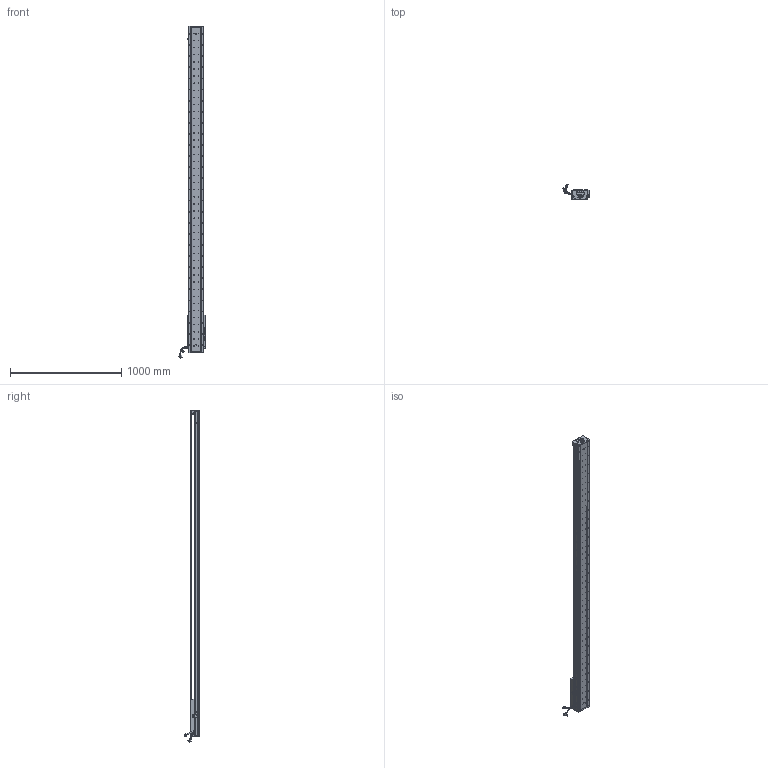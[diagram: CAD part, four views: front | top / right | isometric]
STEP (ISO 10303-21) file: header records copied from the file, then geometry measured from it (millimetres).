
FILE_DESCRIPTION (( 'STEP AP203' ), '1' );
FILE_NAME ('Z4-RY140D-1-L500-B-K.SLDASM_2550.step', '2021-05-17T08:20:19', ( '盈信电脑' ), ( '东莞市道滘镇水果街19号' ), 'SwSTEP 2.0', 'SolidWorks 2016', '' );
FILE_SCHEMA (( 'CONFIG_CONTROL_DESIGN' ));
Length unit declared in the file: millimetre
Products named in the file (36): Z4-RY140-L500詩湍100mm遵_2550; 覜茼ん672; Z-RY140感应器672光电感应片; SCALE; SCREW-M1.7; SCREW-M1.6; LABEL; PSLH080_PSLF2; Z4-RY140-L500直线电机模组底座_2550; SHIELDPLATE; 詩湍奻揤裔; SCREW-M1.6-1; SCALE-Part-1; SCREW-M1.6-3; SEAL-Part-1; COVER-Part-1; PBU_SHEET; SCALE-Part-2; HARNESS-Part-1; SEAL; SCREW-M1.6-2; LABEL-Part-1; SCREW-M1.7-1; 140蚥薯蝶輸; 080黍杅芛假蚾釱21遴; 140雄赽晤鎢ん堤盄; Z4-RY140圉猾敕臏賑輸(21遴); Z-140詩湍傷裔啣; 榋妏寠巭燃_暯_M2_2; Z4-RY140D-1-L500-B-K.SLDASM_2550; 詩湍狟揤裔; COVER; HARNESS; HOLDER0; 140-Z-臏賑輸盄裔(21遴); HARNESS-Part-2
Assembly tree (41 placements, depth 4):
  Z4-RY140D-1-L500-B-K.SLDASM_2550
    Z4-RY140-L500直线电机模组底座_2550
    Z-RY140感应器672光电感应片
    Z4-RY140圉猾敕臏賑輸(21遴)
    覜茼ん672  x3
    Z4-RY140-L500詩湍100mm遵_2550
    PSLH080_PSLF2
      SCALE
        SCALE-Part-1
        SCALE-Part-2
      HARNESS
        HARNESS-Part-1
        HARNESS-Part-2
      LABEL
        LABEL-Part-1
      COVER
        COVER-Part-1
      SEAL
        SEAL-Part-1
      榋妏寠巭燃_暯_M2_2
      SHIELDPLATE
      SCREW-M1.7
      SCREW-M1.7-1
      PBU_SHEET
      SCREW-M1.6
      SCREW-M1.6-1
      SCREW-M1.6-2
      SCREW-M1.6-3
      HOLDER0
    080黍杅芛假蚾釱21遴
    140-Z-臏賑輸盄裔(21遴)
    Z-140詩湍傷裔啣  x2
    詩湍狟揤裔  x2
    詩湍奻揤裔  x2
    140蚥薯蝶輸  x2
    140雄赽晤鎢ん堤盄
Bounding box: 239.79 x 143.88 x 2990.87 mm (x, y, z)
Volume: 9664952.5 mm3; surface area: 2499138.1 mm2
Topology: 36 solids, 36 shells, 4358 faces, 11900 edges, 7537 vertices
Faces by surface type: cylinder 2398, plane 1412, cone 426, torus 69, bspline 53
Entity records: 139624 total; most frequent: CARTESIAN_POINT 39907, ORIENTED_EDGE 20672, DIRECTION 19004, EDGE_CURVE 10336, AXIS2_PLACEMENT_3D 7082, VERTEX_POINT 6705, LINE 4840, VECTOR 4840
